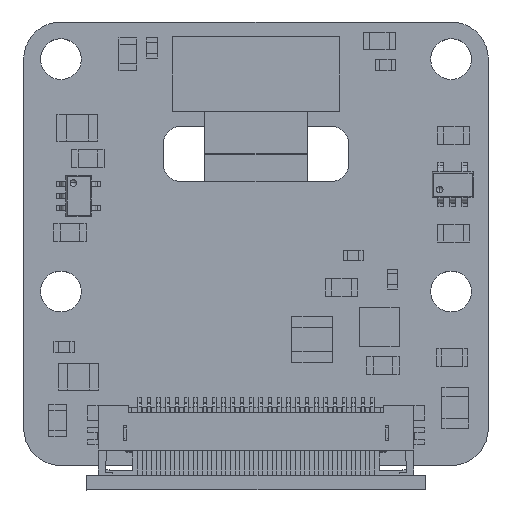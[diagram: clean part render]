
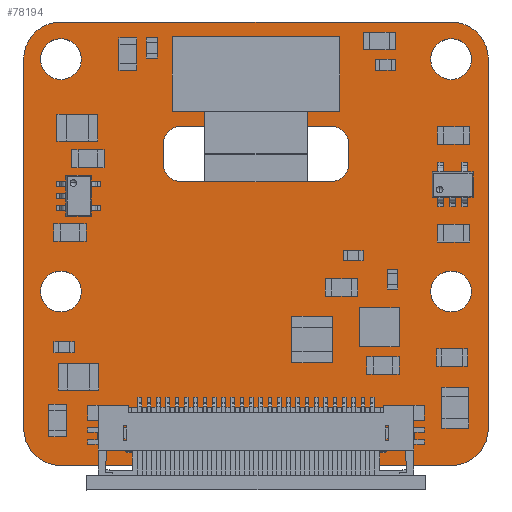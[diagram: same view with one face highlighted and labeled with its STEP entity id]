
A CAD part, top view. The second image highlights one B-rep face of the part: STEP entity #78194.
In plain terms, the highlighted planar face has unit normal (0, 0, 1).
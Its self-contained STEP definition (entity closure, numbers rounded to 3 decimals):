
#77519 = VERTEX_POINT('',#77520);
#77520 = CARTESIAN_POINT('',(-12.5,-9.931,0.));
#77526 = EDGE_CURVE('',#77519,#77527,#77529,.T.);
#77527 = VERTEX_POINT('',#77528);
#77528 = CARTESIAN_POINT('',(-12.5,9.931,0.));
#77529 = LINE('',#77530,#77531);
#77530 = CARTESIAN_POINT('',(-12.5,-9.931,0.));
#77531 = VECTOR('',#77532,1.);
#77532 = DIRECTION('',(0.,1.,0.));
#77557 = EDGE_CURVE('',#77527,#77558,#77560,.T.);
#77558 = VERTEX_POINT('',#77559);
#77559 = CARTESIAN_POINT('',(-10.5,11.931,0.));
#77560 = CIRCLE('',#77561,2.001);
#77561 = AXIS2_PLACEMENT_3D('',#77562,#77563,#77564);
#77562 = CARTESIAN_POINT('',(-10.499,9.93,0.));
#77563 = DIRECTION('',(0.,0.,-1.));
#77564 = DIRECTION('',(-1.,0.,0.));
#77590 = EDGE_CURVE('',#77558,#77591,#77593,.T.);
#77591 = VERTEX_POINT('',#77592);
#77592 = CARTESIAN_POINT('',(10.5,11.931,0.));
#77593 = LINE('',#77594,#77595);
#77594 = CARTESIAN_POINT('',(-10.5,11.931,0.));
#77595 = VECTOR('',#77596,1.);
#77596 = DIRECTION('',(1.,0.,0.));
#77621 = EDGE_CURVE('',#77591,#77622,#77624,.T.);
#77622 = VERTEX_POINT('',#77623);
#77623 = CARTESIAN_POINT('',(12.5,9.931,0.));
#77624 = CIRCLE('',#77625,2.001);
#77625 = AXIS2_PLACEMENT_3D('',#77626,#77627,#77628);
#77626 = CARTESIAN_POINT('',(10.499,9.93,0.));
#77627 = DIRECTION('',(0.,0.,-1.));
#77628 = DIRECTION('',(0.,1.,0.));
#77654 = EDGE_CURVE('',#77622,#77655,#77657,.T.);
#77655 = VERTEX_POINT('',#77656);
#77656 = CARTESIAN_POINT('',(12.5,-9.931,0.));
#77657 = LINE('',#77658,#77659);
#77658 = CARTESIAN_POINT('',(12.5,9.931,0.));
#77659 = VECTOR('',#77660,1.);
#77660 = DIRECTION('',(0.,-1.,0.));
#77685 = EDGE_CURVE('',#77655,#77686,#77688,.T.);
#77686 = VERTEX_POINT('',#77687);
#77687 = CARTESIAN_POINT('',(10.5,-11.931,0.));
#77688 = CIRCLE('',#77689,2.001);
#77689 = AXIS2_PLACEMENT_3D('',#77690,#77691,#77692);
#77690 = CARTESIAN_POINT('',(10.499,-9.93,0.));
#77691 = DIRECTION('',(0.,0.,-1.));
#77692 = DIRECTION('',(1.,0.,0.));
#77718 = EDGE_CURVE('',#77686,#77719,#77721,.T.);
#77719 = VERTEX_POINT('',#77720);
#77720 = CARTESIAN_POINT('',(-10.5,-11.931,0.));
#77721 = LINE('',#77722,#77723);
#77722 = CARTESIAN_POINT('',(10.5,-11.931,0.));
#77723 = VECTOR('',#77724,1.);
#77724 = DIRECTION('',(-1.,0.,0.));
#77749 = EDGE_CURVE('',#77719,#77519,#77750,.T.);
#77750 = CIRCLE('',#77751,2.001);
#77751 = AXIS2_PLACEMENT_3D('',#77752,#77753,#77754);
#77752 = CARTESIAN_POINT('',(-10.499,-9.93,0.));
#77753 = DIRECTION('',(0.,0.,-1.));
#77754 = DIRECTION('',(0.,-1.,0.));
#77775 = VERTEX_POINT('',#77776);
#77776 = CARTESIAN_POINT('',(-9.4,-2.569,0.));
#77782 = EDGE_CURVE('',#77775,#77775,#77783,.T.);
#77783 = CIRCLE('',#77784,1.1);
#77784 = AXIS2_PLACEMENT_3D('',#77785,#77786,#77787);
#77785 = CARTESIAN_POINT('',(-10.5,-2.569,0.));
#77786 = DIRECTION('',(0.,0.,1.));
#77787 = DIRECTION('',(1.,0.,0.));
#77808 = VERTEX_POINT('',#77809);
#77809 = CARTESIAN_POINT('',(-9.4,9.931,0.));
#77815 = EDGE_CURVE('',#77808,#77808,#77816,.T.);
#77816 = CIRCLE('',#77817,1.1);
#77817 = AXIS2_PLACEMENT_3D('',#77818,#77819,#77820);
#77818 = CARTESIAN_POINT('',(-10.5,9.931,0.));
#77819 = DIRECTION('',(0.,0.,1.));
#77820 = DIRECTION('',(1.,0.,0.));
#77841 = VERTEX_POINT('',#77842);
#77842 = CARTESIAN_POINT('',(11.6,-2.569,0.));
#77848 = EDGE_CURVE('',#77841,#77841,#77849,.T.);
#77849 = CIRCLE('',#77850,1.1);
#77850 = AXIS2_PLACEMENT_3D('',#77851,#77852,#77853);
#77851 = CARTESIAN_POINT('',(10.5,-2.569,0.));
#77852 = DIRECTION('',(0.,0.,1.));
#77853 = DIRECTION('',(1.,0.,0.));
#77874 = VERTEX_POINT('',#77875);
#77875 = CARTESIAN_POINT('',(5.,4.331,0.));
#77881 = EDGE_CURVE('',#77874,#77882,#77884,.T.);
#77882 = VERTEX_POINT('',#77883);
#77883 = CARTESIAN_POINT('',(4.,3.331,0.));
#77884 = CIRCLE('',#77885,1.);
#77885 = AXIS2_PLACEMENT_3D('',#77886,#77887,#77888);
#77886 = CARTESIAN_POINT('',(4.,4.331,0.));
#77887 = DIRECTION('',(0.,0.,-1.));
#77888 = DIRECTION('',(1.,0.,0.));
#77914 = EDGE_CURVE('',#77882,#77915,#77917,.T.);
#77915 = VERTEX_POINT('',#77916);
#77916 = CARTESIAN_POINT('',(-4.,3.331,0.));
#77917 = LINE('',#77918,#77919);
#77918 = CARTESIAN_POINT('',(4.,3.331,0.));
#77919 = VECTOR('',#77920,1.);
#77920 = DIRECTION('',(-1.,0.,0.));
#77945 = EDGE_CURVE('',#77915,#77946,#77948,.T.);
#77946 = VERTEX_POINT('',#77947);
#77947 = CARTESIAN_POINT('',(-5.,4.331,0.));
#77948 = CIRCLE('',#77949,1.);
#77949 = AXIS2_PLACEMENT_3D('',#77950,#77951,#77952);
#77950 = CARTESIAN_POINT('',(-4.,4.331,0.));
#77951 = DIRECTION('',(0.,0.,-1.));
#77952 = DIRECTION('',(0.,-1.,0.));
#77978 = EDGE_CURVE('',#77946,#77979,#77981,.T.);
#77979 = VERTEX_POINT('',#77980);
#77980 = CARTESIAN_POINT('',(-5.,5.331,0.));
#77981 = LINE('',#77982,#77983);
#77982 = CARTESIAN_POINT('',(-5.,4.331,0.));
#77983 = VECTOR('',#77984,1.);
#77984 = DIRECTION('',(0.,1.,0.));
#78009 = EDGE_CURVE('',#77979,#78010,#78012,.T.);
#78010 = VERTEX_POINT('',#78011);
#78011 = CARTESIAN_POINT('',(-4.,6.331,0.));
#78012 = CIRCLE('',#78013,1.);
#78013 = AXIS2_PLACEMENT_3D('',#78014,#78015,#78016);
#78014 = CARTESIAN_POINT('',(-4.,5.331,0.));
#78015 = DIRECTION('',(0.,0.,-1.));
#78016 = DIRECTION('',(-1.,0.,0.));
#78042 = EDGE_CURVE('',#78010,#78043,#78045,.T.);
#78043 = VERTEX_POINT('',#78044);
#78044 = CARTESIAN_POINT('',(4.,6.331,0.));
#78045 = LINE('',#78046,#78047);
#78046 = CARTESIAN_POINT('',(-4.,6.331,0.));
#78047 = VECTOR('',#78048,1.);
#78048 = DIRECTION('',(1.,0.,0.));
#78073 = EDGE_CURVE('',#78043,#78074,#78076,.T.);
#78074 = VERTEX_POINT('',#78075);
#78075 = CARTESIAN_POINT('',(5.,5.331,0.));
#78076 = CIRCLE('',#78077,1.);
#78077 = AXIS2_PLACEMENT_3D('',#78078,#78079,#78080);
#78078 = CARTESIAN_POINT('',(4.,5.331,0.));
#78079 = DIRECTION('',(0.,0.,-1.));
#78080 = DIRECTION('',(0.,1.,0.));
#78106 = EDGE_CURVE('',#78074,#77874,#78107,.T.);
#78107 = LINE('',#78108,#78109);
#78108 = CARTESIAN_POINT('',(5.,5.331,0.));
#78109 = VECTOR('',#78110,1.);
#78110 = DIRECTION('',(0.,-1.,0.));
#78130 = VERTEX_POINT('',#78131);
#78131 = CARTESIAN_POINT('',(11.6,9.931,0.));
#78137 = EDGE_CURVE('',#78130,#78130,#78138,.T.);
#78138 = CIRCLE('',#78139,1.1);
#78139 = AXIS2_PLACEMENT_3D('',#78140,#78141,#78142);
#78140 = CARTESIAN_POINT('',(10.5,9.931,0.));
#78141 = DIRECTION('',(0.,0.,1.));
#78142 = DIRECTION('',(1.,0.,0.));
#78194 = ADVANCED_FACE('',(#78195,#78205,#78208,#78211,#78214,#78224),
  #78227,.T.);
#78195 = FACE_BOUND('',#78196,.F.);
#78196 = EDGE_LOOP('',(#78197,#78198,#78199,#78200,#78201,#78202,#78203,
    #78204));
#78197 = ORIENTED_EDGE('',*,*,#77526,.T.);
#78198 = ORIENTED_EDGE('',*,*,#77557,.T.);
#78199 = ORIENTED_EDGE('',*,*,#77590,.T.);
#78200 = ORIENTED_EDGE('',*,*,#77621,.T.);
#78201 = ORIENTED_EDGE('',*,*,#77654,.T.);
#78202 = ORIENTED_EDGE('',*,*,#77685,.T.);
#78203 = ORIENTED_EDGE('',*,*,#77718,.T.);
#78204 = ORIENTED_EDGE('',*,*,#77749,.T.);
#78205 = FACE_BOUND('',#78206,.T.);
#78206 = EDGE_LOOP('',(#78207));
#78207 = ORIENTED_EDGE('',*,*,#77782,.F.);
#78208 = FACE_BOUND('',#78209,.T.);
#78209 = EDGE_LOOP('',(#78210));
#78210 = ORIENTED_EDGE('',*,*,#77815,.F.);
#78211 = FACE_BOUND('',#78212,.T.);
#78212 = EDGE_LOOP('',(#78213));
#78213 = ORIENTED_EDGE('',*,*,#77848,.F.);
#78214 = FACE_BOUND('',#78215,.T.);
#78215 = EDGE_LOOP('',(#78216,#78217,#78218,#78219,#78220,#78221,#78222,
    #78223));
#78216 = ORIENTED_EDGE('',*,*,#77881,.T.);
#78217 = ORIENTED_EDGE('',*,*,#77914,.T.);
#78218 = ORIENTED_EDGE('',*,*,#77945,.T.);
#78219 = ORIENTED_EDGE('',*,*,#77978,.T.);
#78220 = ORIENTED_EDGE('',*,*,#78009,.T.);
#78221 = ORIENTED_EDGE('',*,*,#78042,.T.);
#78222 = ORIENTED_EDGE('',*,*,#78073,.T.);
#78223 = ORIENTED_EDGE('',*,*,#78106,.T.);
#78224 = FACE_BOUND('',#78225,.T.);
#78225 = EDGE_LOOP('',(#78226));
#78226 = ORIENTED_EDGE('',*,*,#78137,.F.);
#78227 = PLANE('',#78228);
#78228 = AXIS2_PLACEMENT_3D('',#78229,#78230,#78231);
#78229 = CARTESIAN_POINT('',(-12.5,-9.931,0.));
#78230 = DIRECTION('',(0.,0.,1.));
#78231 = DIRECTION('',(1.,0.,0.));
